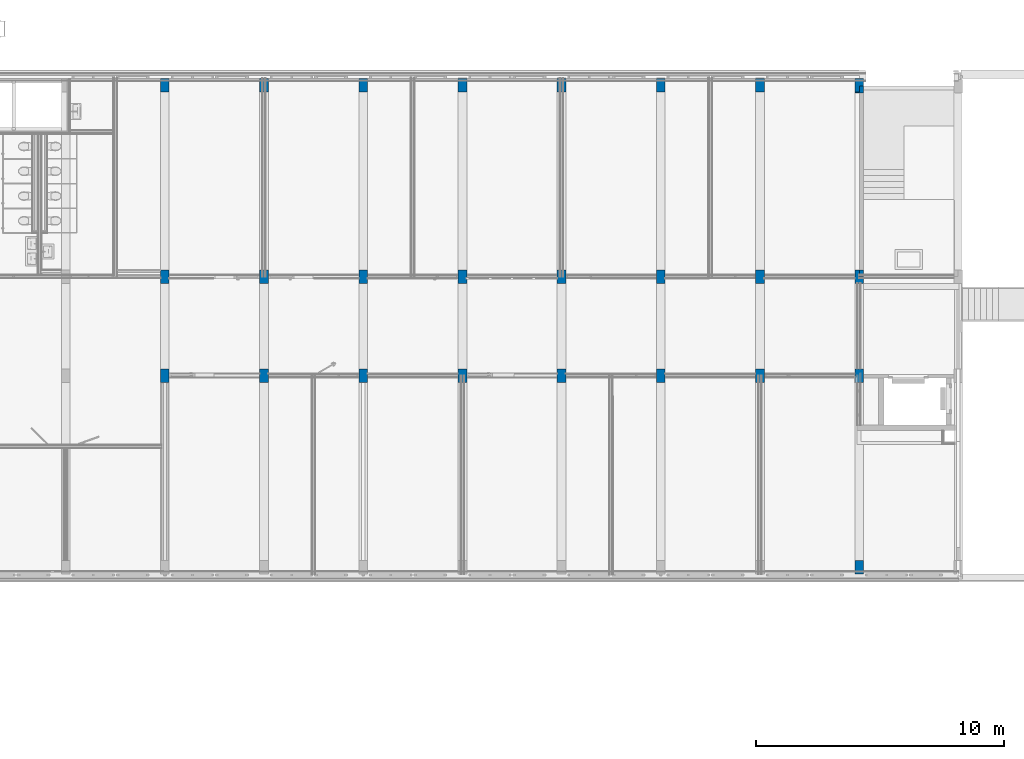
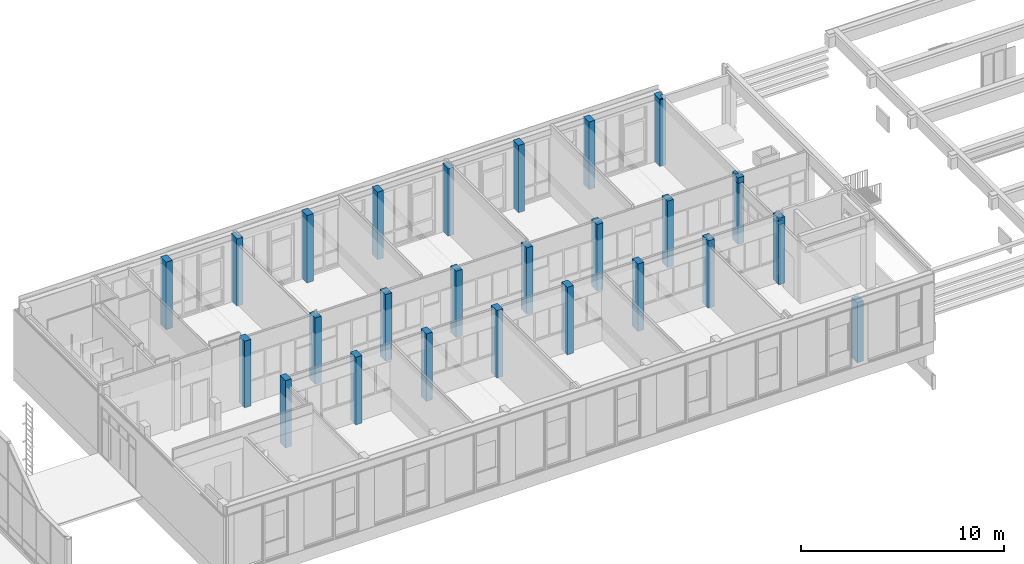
# One storey, part 3 of 54: 28 columns.
"""IFC2X3 building model written with IfcOpenShell, lengths in millimetres."""

import ifcopenshell
import ifcopenshell.guid

model = None  # the IFC model being written
_history = None  # IfcOwnerHistory: only IFC2X3 demands one
_inside = {}  # id of a spatial element -> (the spatial element, [elements in it])
_under = {}  # id of a project, library or spatial element -> (it, [spatial elements below it])
_declared = {}  # id of a project -> (the project, [libraries it declares])
_typed = {}  # id of a type object -> (the type object, [elements of that type])
_made_of = {}  # id of a material, layer set ... -> (it, [elements and type objects made of it])


def new_model(schema):
    """Start an empty IFC model of exactly this schema.

    Asked for "IFC4X3", IfcOpenShell would pick the latest addendum, in which some entities
    have other attributes; the version numbers below select the first issue.
    IFC2X3 requires an IfcOwnerHistory on every rooted entity: one is made here for all.
    """
    global model, _history
    if schema == "IFC4X3":
        model = ifcopenshell.file(schema_version=(4, 3, 0, 0))
    else:
        model = ifcopenshell.file(schema=schema)
    _inside.clear()
    _under.clear()
    _declared.clear()
    _typed.clear()
    _made_of.clear()
    _history = None
    if model.schema == "IFC2X3":
        org = make("IfcOrganization", Name="unknown")
        user = make(
            "IfcPersonAndOrganization",
            ThePerson=make("IfcPerson", FamilyName="unknown"),
            TheOrganization=org,
        )
        app = make(
            "IfcApplication",
            ApplicationDeveloper=org,
            Version="unknown",
            ApplicationFullName="unknown",
            ApplicationIdentifier="unknown",
        )
        _history = make(
            "IfcOwnerHistory",
            OwningUser=user,
            OwningApplication=app,
            ChangeAction="ADDED",
            CreationDate=0,
        )
    return model


def make(cls, **values):
    """One entity of the class cls with the attributes given. An attribute that is None is left unset."""
    return model.create_entity(
        cls, **{name: value for name, value in values.items() if value is not None}
    )


def entity(cls, *values):
    """Any entity or typed value of the class cls, its attributes in the order of the schema. None: left unset."""
    e = model.create_entity(cls)
    for i, value in enumerate(values):
        if value is not None:
            e[i] = value
    return e


def rooted(cls, **values):
    """An entity with a GlobalId (a new one), such as an element, a storey or a relation."""
    return make(cls, GlobalId=ifcopenshell.guid.new(), OwnerHistory=_history, **values)


def si_unit(unit_type, name, prefix=None):
    """IfcSIUnit, for example si_unit("LENGTHUNIT", "METRE", prefix="MILLI")."""
    return make("IfcSIUnit", UnitType=unit_type, Prefix=prefix, Name=name)


def converted_unit(unit_type, name, factor, base, dimensions=None, offset=None):
    """IfcConversionBasedUnit, such as the inch: factor (a typed value) times the base unit."""
    return make(
        "IfcConversionBasedUnit"
        if offset is None
        else "IfcConversionBasedUnitWithOffset",
        ConversionOffset=offset,
        Dimensions=None
        if dimensions is None
        else entity("IfcDimensionalExponents", *dimensions),
        UnitType=unit_type,
        Name=name,
        ConversionFactor=make(
            "IfcMeasureWithUnit", ValueComponent=factor, UnitComponent=base
        ),
    )


def derived_unit(unit_type, elements):
    """IfcDerivedUnit: a product of units, each with its exponent."""
    return make(
        "IfcDerivedUnit",
        Elements=[
            make("IfcDerivedUnitElement", Unit=unit, Exponent=power)
            for unit, power in elements
        ],
        UnitType=unit_type,
    )


def money_unit(currency):
    """IfcMonetaryUnit."""
    return make("IfcMonetaryUnit", Currency=currency)


def assignment(units):
    """IfcUnitAssignment: the units of a project."""
    return None if units is None else make("IfcUnitAssignment", Units=units)


def point(xyz):
    """IfcCartesianPoint."""
    return None if xyz is None else make("IfcCartesianPoint", Coordinates=xyz)


def direction(xyz):
    """IfcDirection."""
    return None if xyz is None else make("IfcDirection", DirectionRatios=xyz)


def frame(location, z_axis=None, x_axis=None):
    """IfcAxis2Placement3D, a coordinate frame: its origin and axes. An axis left out is left unset."""
    return make(
        "IfcAxis2Placement3D",
        Location=point(location),
        Axis=direction(z_axis),
        RefDirection=direction(x_axis),
    )


def origin_with_axes():
    """The frame at (0, 0, 0) with the z axis (0, 0, 1) and the x axis (1, 0, 0) written out."""
    return frame((0.0, 0.0, 0.0), z_axis=(0.0, 0.0, 1.0), x_axis=(1.0, 0.0, 0.0))


def place(relative_to, where):
    """IfcLocalPlacement: puts the frame where relative to a parent placement (None: the world)."""
    return make(
        "IfcLocalPlacement", PlacementRelTo=relative_to, RelativePlacement=where
    )


def context(
    kind, dimensions, precision=None, world=None, true_north=None, identifier=None
):
    """IfcGeometricRepresentationContext, for example the 3D "Model" context."""
    return make(
        "IfcGeometricRepresentationContext",
        ContextIdentifier=identifier,
        ContextType=kind,
        CoordinateSpaceDimension=dimensions,
        Precision=precision,
        WorldCoordinateSystem=world,
        TrueNorth=true_north,
    )


def subcontext(parent, identifier, kind, view, scale=None):
    """IfcGeometricRepresentationSubContext, for example "Body" below "Model"."""
    return make(
        "IfcGeometricRepresentationSubContext",
        ContextIdentifier=identifier,
        ContextType=kind,
        ParentContext=parent,
        TargetScale=scale,
        TargetView=view,
    )


def project(units=None, contexts=None):
    """IfcProject with its units and contexts."""
    return rooted(
        "IfcProject",
        Name="project",
        RepresentationContexts=contexts,
        UnitsInContext=assignment(units),
    )


def spatial(cls, under=None, at=None, **own):
    """A site, building, storey or space (cls), placed at a placement, below another one or the project."""
    s = rooted(cls, ObjectPlacement=at, **own)
    if under is not None:
        _under.setdefault(under.id(), (under, []))[1].append(s)
    return s


def faces_of(points, faces, orient=None, outer=None):
    """IfcFace entities. A face is a list of loops; a loop is a list of indices into points, from 0.

    orient and outer hold one flag for each loop. By default every Orientation is true, the
    first loop of a face is its IfcFaceOuterBound and the others are IfcFaceBound.
    """
    made = []
    for i, loops in enumerate(faces):
        bounds = []
        for j, loop in enumerate(loops):
            is_outer = j == 0 if outer is None else outer[i][j]
            bounds.append(
                make(
                    "IfcFaceOuterBound" if is_outer else "IfcFaceBound",
                    Bound=make("IfcPolyLoop", Polygon=[points[k] for k in loop]),
                    Orientation=True if orient is None else orient[i][j],
                )
            )
        made.append(make("IfcFace", Bounds=bounds))
    return made


def faceted_brep(points, faces, orient=None, outer=None, voids=None):
    """IfcFacetedBrep: a solid bounded by flat faces; with voids (closed shells), ...WithVoids."""
    shared = [point(p) for p in points]
    hull = make("IfcClosedShell", CfsFaces=faces_of(shared, faces, orient, outer))
    if voids is None:
        return make("IfcFacetedBrep", Outer=hull)
    return make(
        "IfcFacetedBrepWithVoids",
        Outer=hull,
        Voids=[
            make(cls, CfsFaces=faces_of(shared, fs, o, b)) for cls, fs, o, b in voids
        ],
    )


def shape(context_of_items, identifier, shape_type, items):
    """IfcShapeRepresentation: the items that make up one representation, for example the "Body"."""
    return make(
        "IfcShapeRepresentation",
        ContextOfItems=context_of_items,
        RepresentationIdentifier=identifier,
        RepresentationType=shape_type,
        Items=items,
    )


def material(Name=None, Category=None):
    """IfcMaterial."""
    return make("IfcMaterial", Name=Name, Category=Category)


def made_of(thing, what):
    """Note that an element or type object is made of a material, layer set ...; save() writes the relation."""
    if what is not None:
        _made_of.setdefault(what.id(), (what, []))[1].append(thing)
    return thing


def type_object(cls, material=None, **own):
    """A type object (cls), such as IfcWallType, which elements share."""
    return made_of(rooted(cls, **own), material)


def element(
    cls,
    number,
    at=None,
    inside=None,
    cuts=None,
    type_object=None,
    material=None,
    context=None,
    identifier="Body",
    shape_type=None,
    held_by="IfcProductDefinitionShape",
    body=None,
    shapes=None,
    **own,
):
    """One element of the class cls, such as IfcWall. Its Tag is "e" and its number.

    at: its placement. inside: the storey or other place that contains it. cuts: it is an
    opening in that element (IfcRelVoidsElement). A single representation is given by context,
    identifier, shape_type and body (its items); several are given by shapes. held_by: the class
    of the entity that holds the representations. save() writes the other relations.
    """
    e = rooted(cls, Tag="e%d" % number, ObjectPlacement=at, **own)
    if body is not None:
        shapes = [shape(context, identifier, shape_type, body)]
    if shapes is not None:
        e.Representation = make(held_by, Representations=shapes)
    if inside is not None:
        _inside.setdefault(inside.id(), (inside, []))[1].append(e)
    if cuts is not None:
        rooted(
            "IfcRelVoidsElement", RelatingBuildingElement=cuts, RelatedOpeningElement=e
        )
    if type_object is not None:
        _typed.setdefault(type_object.id(), (type_object, []))[1].append(e)
    return made_of(e, material)


def aggregate(whole, parts):
    """IfcRelAggregates: a whole, such as a stair, and the parts it consists of."""
    return rooted("IfcRelAggregates", RelatingObject=whole, RelatedObjects=parts)


def save(model, path):
    """Write the relations noted so far, then the file.

    IfcRelAggregates (storeys below a building ...), IfcRelContainedInSpatialStructure (elements
    in a storey), IfcRelDefinesByType, IfcRelAssociatesMaterial and IfcRelDeclares: one each for
    every whole, place, type object, material and project.
    """
    for whole, parts in _under.values():
        aggregate(whole, parts)
    for where, things in _inside.values():
        rooted(
            "IfcRelContainedInSpatialStructure",
            RelatedElements=things,
            RelatingStructure=where,
        )
    for kind, things in _typed.values():
        rooted("IfcRelDefinesByType", RelatedObjects=things, RelatingType=kind)
    for what, things in _made_of.values():
        rooted("IfcRelAssociatesMaterial", RelatedObjects=things, RelatingMaterial=what)
    for by, libraries in _declared.values():
        rooted("IfcRelDeclares", RelatingContext=by, RelatedDefinitions=libraries)
    model.write(path)


model = new_model("IFC2X3")

# Units and contexts
model_context = context("Model", 3, precision=0.01, world=origin_with_axes(), true_north=direction((0.0, 1.0)))
body_context = subcontext(model_context, "Body", "Model", "MODEL_VIEW")
ifc_project = project(units=[si_unit("LENGTHUNIT", "METRE", prefix="MILLI"), si_unit("AREAUNIT", "SQUARE_METRE"), si_unit("VOLUMEUNIT", "CUBIC_METRE"), converted_unit("PLANEANGLEUNIT", "DEGREE", entity("IfcPlaneAngleMeasure", 0.0174532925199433), si_unit("PLANEANGLEUNIT", "RADIAN"), dimensions=[0, 0, 0, 0, 0, 0, 0]), money_unit("EUR"), converted_unit("TIMEUNIT", "Year", entity("IfcTimeMeasure", 31557600.0), si_unit("TIMEUNIT", "SECOND"), dimensions=[0, 0, 1, 0, 0, 0, 0]), si_unit("MASSUNIT", "GRAM", prefix="KILO"), si_unit("THERMODYNAMICTEMPERATUREUNIT", "DEGREE_CELSIUS"), si_unit("LUMINOUSINTENSITYUNIT", "LUMEN"), si_unit("ENERGYUNIT", "JOULE", prefix="MEGA"), derived_unit("THERMALCONDUCTANCEUNIT", [(si_unit("POWERUNIT", "WATT"), 1), (si_unit("LENGTHUNIT", "METRE"), -1), (si_unit("THERMODYNAMICTEMPERATUREUNIT", "KELVIN"), -1)]), derived_unit("SPECIFICHEATCAPACITYUNIT", [(si_unit("ENERGYUNIT", "JOULE"), 1), (si_unit("MASSUNIT", "GRAM", prefix="KILO"), -1), (si_unit("THERMODYNAMICTEMPERATUREUNIT", "KELVIN"), -1)]), derived_unit("MASSDENSITYUNIT", [(si_unit("MASSUNIT", "GRAM", prefix="KILO"), 1), (si_unit("VOLUMEUNIT", "CUBIC_METRE"), -1)])], contexts=[model_context])

# Site, building, storey
site_placement = place(None, origin_with_axes())
site = spatial("IfcSite", under=ifc_project, at=site_placement, Name="<site naam>", CompositionType="ELEMENT")
building_placement = place(site_placement, origin_with_axes())
building = spatial("IfcBuilding", under=site, at=building_placement, Name="<Naam gebouw>", CompositionType="ELEMENT")
storey_placement = place(building_placement, frame((0.0, 0.0, 8500.0), z_axis=(0.0, 0.0, 1.0), x_axis=(1.0, 0.0, 0.0)))
storey = spatial("IfcBuildingStorey", under=building, at=storey_placement, Name="02 2e verdieping", CompositionType="ELEMENT", Elevation=8500.0)

# Columns
ifc_material_1 = material(Name="betonblok C")
column_type_1 = type_object("IfcColumnType", Name="betonblok C 350 x 550", PredefinedType="COLUMN")
column_1_placement = place(storey_placement, frame((48000.00000000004, 19724.99999999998, 0.0), z_axis=(0.0, 0.0, 1.0), x_axis=(1.0, 0.0, 0.0)))
element("IfcColumn", 1, at=column_1_placement, inside=storey, type_object=column_type_1, material=ifc_material_1, Name="28_Kolom_betonblok", ObjectType="COLUMN", context=body_context, shape_type="Brep", body=[
    faceted_brep([(-174.9999999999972, 274.9999999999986, 0.0), (-174.9999999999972, 274.9999999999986, 4050.000014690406), (174.9999999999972, 274.9999999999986, 4050.000014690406), (174.9999999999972, 274.9999999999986, 0.0), (-174.9999999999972, -274.9999999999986, 0.0), (-174.9999999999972, -274.9999999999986, 4050.000014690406), (15.07785426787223, -39.08932188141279, 4050.000014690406), (174.9999999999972, -39.08932188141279, 4050.000014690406), (15.07785426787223, -274.9999999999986, 4050.000014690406), (174.9999999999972, -39.08932188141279, 0.0), (15.07785426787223, -39.08932188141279, 0.0), (15.07785426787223, -274.9999999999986, 0.0)], [[[0, 1, 2, 3]], [[4, 5, 1, 0]], [[6, 7, 2, 1, 5, 8]], [[3, 2, 7, 9]], [[3, 9, 10, 11, 4, 0]], [[11, 8, 5, 4]], [[9, 7, 6, 10]], [[10, 6, 8, 11]]]),
])
column_2_placement = place(storey_placement, frame((48000.00000000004, 8000.000000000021, 0.0), z_axis=(0.0, 0.0, 1.0), x_axis=(1.0, 0.0, 0.0)))
element("IfcColumn", 2, at=column_2_placement, inside=storey, type_object=column_type_1, material=ifc_material_1, Name="28_Kolom_betonblok", ObjectType="COLUMN", context=body_context, shape_type="Brep", body=[
    faceted_brep([(-174.9999999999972, 275.0000000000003, 0.0), (-175.0000000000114, 275.0000000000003, 3660.0), (174.9999999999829, 275.0000000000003, 3660.0), (174.9999999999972, 275.0000000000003, 0.0), (-175.0000000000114, -5.54614990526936, 3610.000000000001), (-175.0000000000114, -5.54614990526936, 3660.0), (-174.9999999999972, -275.0000000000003, 0.0), (-175.0000000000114, -275.0000000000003, 3610.000000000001), (174.9999999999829, -5.54614990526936, 3660.0), (174.9999999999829, -5.54614990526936, 3610.000000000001), (174.9999999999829, -275.0000000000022, 3610.000000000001), (174.9999999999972, -275.0000000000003, 0.0)], [[[0, 1, 2, 3]], [[4, 5, 1, 0, 6, 7]], [[5, 8, 2, 1]], [[3, 2, 8, 9, 10, 11]], [[0, 3, 11, 6]], [[9, 8, 5, 4]], [[11, 10, 7, 6]], [[7, 10, 9, 4]]]),
])
column_3_placement = place(storey_placement, frame((48000.00000000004, 12000.00000000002, 0.0), z_axis=(0.0, 0.0, 1.0), x_axis=(1.0, 0.0, 0.0)))
element("IfcColumn", 3, at=column_3_placement, inside=storey, type_object=column_type_1, material=ifc_material_1, Name="28_Kolom_betonblok", ObjectType="COLUMN", context=body_context, shape_type="Brep", body=[
    faceted_brep([(15.07785426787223, 0.0, 0.0), (15.07785426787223, 0.0, 3660.0), (174.9999999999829, 0.0, 3660.0), (174.9999999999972, 0.0, 0.0), (15.07785426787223, 275.0000000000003, 4050.000014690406), (15.07785426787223, 0.0, 4050.000014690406), (15.07785426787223, 275.0000000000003, 0.0), (-175.0000000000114, -275.0000000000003, 3660.0), (174.9999999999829, -275.0000000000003, 3660.0), (-175.0000000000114, 0.0, 3660.0), (174.9999999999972, -275.0000000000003, 0.0), (-174.9999999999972, -275.0000000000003, 0.0), (-174.9999999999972, 275.0000000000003, 0.0), (-174.9999999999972, 275.0000000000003, 4050.000014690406), (-175.0000000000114, 0.0, 4050.000014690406)], [[[0, 1, 2, 3]], [[4, 5, 1, 0, 6]], [[7, 8, 2, 1, 9]], [[3, 2, 8, 10]], [[11, 12, 6, 0, 3, 10]], [[13, 14, 5, 4]], [[9, 1, 5, 14]], [[6, 12, 13, 4]], [[10, 8, 7, 11]], [[7, 9, 14, 13, 12, 11]]]),
])
column_4_placement = place(storey_placement, frame((48000.00000000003, 275.0000000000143, 0.0), z_axis=(0.0, 0.0, 1.0), x_axis=(1.0, 0.0, 0.0)))
element("IfcColumn", 4, at=column_4_placement, inside=storey, type_object=column_type_1, material=ifc_material_1, Name="28_Kolom_betonblok", ObjectType="COLUMN", context=body_context, shape_type="Brep", body=[
    faceted_brep([(-174.9999999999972, 275.0000000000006, 0.0), (-174.9999999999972, 275.0000000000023, 3610.000000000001), (175.0000000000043, 275.0000000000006, 3610.000000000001), (174.9999999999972, 275.0000000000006, 0.0), (-174.9999999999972, -275.0000000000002, 0.0), (-174.9999999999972, -275.0000000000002, 3610.000000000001), (175.0000000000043, -275.0000000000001, 3610.000000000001), (174.9999999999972, -275.0000000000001, 0.0)], [[[0, 1, 2, 3]], [[4, 5, 1, 0]], [[5, 6, 2, 1]], [[3, 2, 6, 7]], [[0, 3, 7, 4]], [[7, 6, 5, 4]]]),
])
ifc_material_2 = material(Name="beton_gewapend C")
column_type_2 = type_object("IfcColumnType", Name="beton_gewapend C 350 x 550", PredefinedType="COLUMN")
column_5_placement = place(storey_placement, frame((48000.00000000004, 19685.91067811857, 0.0), z_axis=(0.0, 0.0, 1.0), x_axis=(1.0, 0.0, 0.0)))
element("IfcColumn", 5, at=column_5_placement, inside=storey, type_object=column_type_2, material=ifc_material_2, Name="28_Kolom_beton_gewapend", ObjectType="COLUMN", context=body_context, shape_type="Brep", body=[
    faceted_brep([(-174.9999999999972, -274.9999999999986, 3990.0), (-174.9999999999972, -274.9999999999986, 0.0), (174.9999999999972, -274.9999999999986, 0.0), (174.9999999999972, -274.9999999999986, 3990.0), (-174.9999999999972, 274.9999999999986, 3990.0), (-174.9999999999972, 274.9999999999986, 0.0), (174.9999999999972, 274.9999999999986, 0.0), (174.9999999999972, 274.9999999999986, 3990.0)], [[[0, 1, 2, 3]], [[4, 5, 1, 0]], [[2, 1, 5, 6]], [[3, 2, 6, 7]], [[4, 0, 3, 7]], [[7, 6, 5, 4]]]),
])
column_6_placement = place(storey_placement, frame((48000.00000000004, 8000.000000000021, 0.0), z_axis=(0.0, 0.0, 1.0), x_axis=(1.0, 0.0, 0.0)))
element("IfcColumn", 6, at=column_6_placement, inside=storey, type_object=column_type_2, material=ifc_material_2, Name="28_Kolom_beton_gewapend", ObjectType="COLUMN", context=body_context, shape_type="Brep", body=[
    faceted_brep([(-174.9999999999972, -275.0000000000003, 3990.0), (-174.9999999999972, -275.0000000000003, 0.0), (174.9999999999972, -275.0000000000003, 0.0), (174.9999999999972, -275.0000000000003, 3990.0), (-174.9999999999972, 275.0000000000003, 3990.0), (-174.9999999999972, 275.0000000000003, 0.0), (174.9999999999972, 275.0000000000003, 0.0), (174.9999999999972, 275.0000000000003, 3990.0)], [[[0, 1, 2, 3]], [[4, 5, 1, 0]], [[2, 1, 5, 6]], [[3, 2, 6, 7]], [[4, 0, 3, 7]], [[7, 6, 5, 4]]]),
])
column_7_placement = place(storey_placement, frame((44000.00000000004, 19724.99999999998, 0.0), z_axis=(0.0, 0.0, 1.0), x_axis=(1.0, 0.0, 0.0)))
element("IfcColumn", 7, at=column_7_placement, inside=storey, type_object=column_type_2, material=ifc_material_2, Name="28_Kolom_beton_gewapend", ObjectType="COLUMN", context=body_context, shape_type="Brep", body=[
    faceted_brep([(-174.9999999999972, 274.9999999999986, 0.0), (-174.9999999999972, 274.9999999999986, 4050.000014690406), (174.9999999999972, 274.9999999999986, 4050.000014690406), (174.9999999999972, 274.9999999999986, 0.0), (-174.9999999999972, -274.9999999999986, 0.0), (-174.9999999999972, -274.9999999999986, 4050.000014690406), (174.9999999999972, -274.9999999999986, 4050.000014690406), (174.9999999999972, -274.9999999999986, 0.0)], [[[0, 1, 2, 3]], [[4, 5, 1, 0]], [[5, 6, 2, 1]], [[3, 2, 6, 7]], [[3, 7, 4, 0]], [[7, 6, 5, 4]]]),
])
column_8_placement = place(storey_placement, frame((44000.00000000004, 8000.000000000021, 0.0), z_axis=(0.0, 0.0, 1.0), x_axis=(1.0, 0.0, 0.0)))
element("IfcColumn", 8, at=column_8_placement, inside=storey, type_object=column_type_2, material=ifc_material_2, Name="28_Kolom_beton_gewapend", ObjectType="COLUMN", context=body_context, shape_type="Brep", body=[
    faceted_brep([(-174.9999999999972, 274.9999999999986, 0.0), (-174.9999999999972, 274.9999999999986, 4050.000014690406), (174.9999999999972, 275.0000000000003, 4050.000014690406), (174.9999999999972, 275.0000000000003, 0.0), (-174.9999999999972, -275.0000000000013, 0.0), (-174.9999999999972, -275.0000000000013, 4050.000014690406), (174.9999999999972, -275.0000000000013, 4050.000014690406), (174.9999999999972, -275.0000000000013, 0.0)], [[[0, 1, 2, 3]], [[4, 5, 1, 0]], [[5, 6, 2, 1]], [[3, 2, 6, 7]], [[3, 7, 4, 0]], [[7, 6, 5, 4]]]),
])
column_9_placement = place(storey_placement, frame((48000.00000000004, 12000.00000000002, 0.0), z_axis=(0.0, 0.0, 1.0), x_axis=(1.0, 0.0, 0.0)))
element("IfcColumn", 9, at=column_9_placement, inside=storey, type_object=column_type_2, material=ifc_material_2, Name="28_Kolom_beton_gewapend", ObjectType="COLUMN", context=body_context, shape_type="Brep", body=[
    faceted_brep([(-174.9999999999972, -275.0000000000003, 3990.0), (-174.9999999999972, -275.0000000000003, 0.0), (174.9999999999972, -275.0000000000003, 0.0), (174.9999999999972, -275.0000000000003, 3990.0), (-174.9999999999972, 275.0000000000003, 3990.0), (-174.9999999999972, 275.0000000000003, 0.0), (174.9999999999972, 275.0000000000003, 0.0), (174.9999999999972, 275.0000000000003, 3990.0)], [[[0, 1, 2, 3]], [[4, 5, 1, 0]], [[2, 1, 5, 6]], [[3, 2, 6, 7]], [[4, 0, 3, 7]], [[7, 6, 5, 4]]]),
])
column_10_placement = place(storey_placement, frame((44000.00000000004, 12000.00000000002, 0.0), z_axis=(0.0, 0.0, 1.0), x_axis=(1.0, 0.0, 0.0)))
element("IfcColumn", 10, at=column_10_placement, inside=storey, type_object=column_type_2, material=ifc_material_2, Name="28_Kolom_beton_gewapend", ObjectType="COLUMN", context=body_context, shape_type="Brep", body=[
    faceted_brep([(-174.9999999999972, -275.0000000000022, 3990.0), (-174.9999999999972, -275.0000000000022, 0.0), (174.9999999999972, -275.0000000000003, 0.0), (174.9999999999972, -275.0000000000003, 3990.0), (-174.9999999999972, 274.9999999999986, 3990.0), (-174.9999999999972, 274.9999999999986, 0.0), (174.9999999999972, 275.0000000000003, 0.0), (174.9999999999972, 275.0000000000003, 3990.0)], [[[0, 1, 2, 3]], [[4, 5, 1, 0]], [[2, 1, 5, 6]], [[3, 2, 6, 7]], [[4, 0, 3, 7]], [[7, 6, 5, 4]]]),
])
column_11_placement = place(storey_placement, frame((40000.00000000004, 19724.99999999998, 0.0), z_axis=(0.0, 0.0, 1.0), x_axis=(1.0, 0.0, 0.0)))
element("IfcColumn", 11, at=column_11_placement, inside=storey, type_object=column_type_2, material=ifc_material_2, Name="28_Kolom_beton_gewapend", ObjectType="COLUMN", context=body_context, shape_type="Brep", body=[
    faceted_brep([(-174.9999999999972, 274.999999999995, 0.0), (-174.9999999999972, 274.999999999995, 4050.000014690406), (174.9999999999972, 274.9999999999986, 4050.000014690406), (174.9999999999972, 274.9999999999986, 0.0), (-174.9999999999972, -275.0000000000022, 0.0), (-174.9999999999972, -275.0000000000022, 4050.000014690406), (174.9999999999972, -274.9999999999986, 4050.000014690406), (174.9999999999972, -274.9999999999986, 0.0)], [[[0, 1, 2, 3]], [[4, 5, 1, 0]], [[5, 6, 2, 1]], [[3, 2, 6, 7]], [[3, 7, 4, 0]], [[7, 6, 5, 4]]]),
])
column_12_placement = place(storey_placement, frame((40000.00000000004, 12000.00000000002, 0.0), z_axis=(0.0, 0.0, 1.0), x_axis=(1.0, 0.0, 0.0)))
element("IfcColumn", 12, at=column_12_placement, inside=storey, type_object=column_type_2, material=ifc_material_2, Name="28_Kolom_beton_gewapend", ObjectType="COLUMN", context=body_context, shape_type="Brep", body=[
    faceted_brep([(-174.9999999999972, -275.0000000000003, 3990.0), (-174.9999999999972, -275.0000000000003, 0.0), (174.9999999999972, -275.0000000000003, 0.0), (174.9999999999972, -275.0000000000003, 3990.0), (-174.9999999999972, 275.0000000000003, 3990.0), (-174.9999999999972, 275.0000000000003, 0.0), (174.9999999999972, 275.0000000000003, 0.0), (174.9999999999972, 275.0000000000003, 3990.0)], [[[0, 1, 2, 3]], [[4, 5, 1, 0]], [[2, 1, 5, 6]], [[3, 2, 6, 7]], [[4, 0, 3, 7]], [[7, 6, 5, 4]]]),
])
column_13_placement = place(storey_placement, frame((40000.00000000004, 8000.000000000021, 0.0), z_axis=(0.0, 0.0, 1.0), x_axis=(1.0, 0.0, 0.0)))
element("IfcColumn", 13, at=column_13_placement, inside=storey, type_object=column_type_2, material=ifc_material_2, Name="28_Kolom_beton_gewapend", ObjectType="COLUMN", context=body_context, shape_type="Brep", body=[
    faceted_brep([(-174.9999999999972, 275.0000000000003, 0.0), (-174.9999999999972, 275.0000000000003, 4050.000014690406), (174.9999999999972, 275.0000000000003, 4050.000014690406), (174.9999999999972, 275.0000000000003, 0.0), (-174.9999999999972, -275.0000000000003, 0.0), (-174.9999999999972, -275.0000000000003, 4050.000014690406), (174.9999999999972, -275.0000000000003, 4050.000014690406), (174.9999999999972, -275.0000000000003, 0.0)], [[[0, 1, 2, 3]], [[4, 5, 1, 0]], [[5, 6, 2, 1]], [[3, 2, 6, 7]], [[3, 7, 4, 0]], [[7, 6, 5, 4]]]),
])
column_14_placement = place(storey_placement, frame((20000.00000000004, 19724.99999999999, 0.0), z_axis=(0.0, 0.0, 1.0), x_axis=(1.0, 0.0, 0.0)))
element("IfcColumn", 14, at=column_14_placement, inside=storey, type_object=column_type_2, material=ifc_material_2, Name="28_Kolom_beton_gewapend", ObjectType="COLUMN", context=body_context, shape_type="Brep", body=[
    faceted_brep([(-175.0000000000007, 274.9999999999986, 0.0), (-175.0000000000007, 274.9999999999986, 4050.000014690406), (175.0000000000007, 274.9999999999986, 4050.000014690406), (175.0000000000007, 274.9999999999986, 0.0), (-175.0000000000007, -274.9999999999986, 0.0), (-175.0000000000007, -274.9999999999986, 4050.000014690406), (175.0000000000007, -274.9999999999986, 4050.000014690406), (175.0000000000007, -274.9999999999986, 0.0)], [[[0, 1, 2, 3]], [[4, 5, 1, 0]], [[5, 6, 2, 1]], [[3, 2, 6, 7]], [[3, 7, 4, 0]], [[7, 6, 5, 4]]]),
])
column_15_placement = place(storey_placement, frame((20000.00000000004, 12000.00000000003, 0.0), z_axis=(0.0, 0.0, 1.0), x_axis=(1.0, 0.0, 0.0)))
element("IfcColumn", 15, at=column_15_placement, inside=storey, type_object=column_type_2, material=ifc_material_2, Name="28_Kolom_beton_gewapend", ObjectType="COLUMN", context=body_context, shape_type="Brep", body=[
    faceted_brep([(-175.0000000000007, -275.0000000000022, 3990.0), (-175.0000000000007, -275.0000000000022, 0.0), (175.0000000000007, -275.0000000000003, 0.0), (175.0000000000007, -275.0000000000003, 3990.0), (-175.0000000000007, 274.9999999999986, 3990.0), (-175.0000000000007, 274.9999999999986, 0.0), (175.0000000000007, 275.0000000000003, 0.0), (175.0000000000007, 275.0000000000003, 3990.0)], [[[0, 1, 2, 3]], [[4, 5, 1, 0]], [[2, 1, 5, 6]], [[3, 2, 6, 7]], [[4, 0, 3, 7]], [[7, 6, 5, 4]]]),
])
column_16_placement = place(storey_placement, frame((20000.00000000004, 8000.000000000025, 0.0), z_axis=(0.0, 0.0, 1.0), x_axis=(1.0, 0.0, 0.0)))
element("IfcColumn", 16, at=column_16_placement, inside=storey, type_object=column_type_2, material=ifc_material_2, Name="28_Kolom_beton_gewapend", ObjectType="COLUMN", context=body_context, shape_type="Brep", body=[
    faceted_brep([(-175.0000000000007, 274.9999999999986, 0.0), (-175.0000000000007, 274.9999999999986, 4050.000014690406), (175.0000000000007, 275.0000000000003, 4050.000014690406), (175.0000000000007, 275.0000000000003, 0.0), (-174.9999999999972, -275.0000000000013, 0.0), (-174.9999999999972, -275.0000000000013, 4050.000014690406), (175.0000000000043, -275.0000000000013, 4050.000014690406), (175.0000000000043, -275.0000000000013, 0.0)], [[[0, 1, 2, 3]], [[4, 5, 1, 0]], [[5, 6, 2, 1]], [[3, 2, 6, 7]], [[0, 3, 7, 4]], [[7, 6, 5, 4]]]),
])
column_17_placement = place(storey_placement, frame((24000.00000000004, 12000.00000000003, 0.0), z_axis=(0.0, 0.0, 1.0), x_axis=(1.0, 0.0, 0.0)))
element("IfcColumn", 17, at=column_17_placement, inside=storey, type_object=column_type_2, material=ifc_material_2, Name="28_Kolom_beton_gewapend", ObjectType="COLUMN", context=body_context, shape_type="Brep", body=[
    faceted_brep([(-175.0000000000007, -275.0000000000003, 3990.0), (-175.0000000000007, -275.0000000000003, 0.0), (175.0000000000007, -275.0000000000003, 0.0), (175.0000000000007, -275.0000000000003, 3990.0), (-175.0000000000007, 275.0000000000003, 3990.0), (-175.0000000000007, 275.0000000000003, 0.0), (175.0000000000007, 275.0000000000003, 0.0), (175.0000000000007, 275.0000000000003, 3990.0)], [[[0, 1, 2, 3]], [[4, 5, 1, 0]], [[2, 1, 5, 6]], [[3, 2, 6, 7]], [[4, 0, 3, 7]], [[7, 6, 5, 4]]]),
])
column_18_placement = place(storey_placement, frame((24000.00000000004, 8000.000000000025, 0.0), z_axis=(0.0, 0.0, 1.0), x_axis=(1.0, 0.0, 0.0)))
element("IfcColumn", 18, at=column_18_placement, inside=storey, type_object=column_type_2, material=ifc_material_2, Name="28_Kolom_beton_gewapend", ObjectType="COLUMN", context=body_context, shape_type="Brep", body=[
    faceted_brep([(-175.0000000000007, 275.0000000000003, 0.0), (-175.0000000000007, 275.0000000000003, 4050.000014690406), (175.0000000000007, 275.0000000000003, 4050.000014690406), (175.0000000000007, 275.0000000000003, 0.0), (-174.9999999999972, -275.0000000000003, 0.0), (-174.9999999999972, -275.0000000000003, 4050.000014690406), (175.0000000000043, -275.0000000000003, 4050.000014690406), (175.0000000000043, -275.0000000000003, 0.0)], [[[0, 1, 2, 3]], [[4, 5, 1, 0]], [[5, 6, 2, 1]], [[3, 2, 6, 7]], [[3, 7, 4, 0]], [[7, 6, 5, 4]]]),
])
column_19_placement = place(storey_placement, frame((24000.00000000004, 19724.99999999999, 0.0), z_axis=(0.0, 0.0, 1.0), x_axis=(1.0, 0.0, 0.0)))
element("IfcColumn", 19, at=column_19_placement, inside=storey, type_object=column_type_2, material=ifc_material_2, Name="28_Kolom_beton_gewapend", ObjectType="COLUMN", context=body_context, shape_type="Brep", body=[
    faceted_brep([(-175.0000000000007, 274.999999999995, 0.0), (-175.0000000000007, 274.999999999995, 4050.000014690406), (175.0000000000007, 274.9999999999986, 4050.000014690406), (175.0000000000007, 274.9999999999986, 0.0), (-175.0000000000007, -275.0000000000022, 0.0), (-175.0000000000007, -275.0000000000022, 4050.000014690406), (175.0000000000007, -274.9999999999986, 4050.000014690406), (175.0000000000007, -274.9999999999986, 0.0)], [[[0, 1, 2, 3]], [[4, 5, 1, 0]], [[5, 6, 2, 1]], [[3, 2, 6, 7]], [[3, 7, 4, 0]], [[7, 6, 5, 4]]]),
])
column_20_placement = place(storey_placement, frame((28000.00000000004, 19724.99999999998, 0.0), z_axis=(0.0, 0.0, 1.0), x_axis=(1.0, 0.0, 0.0)))
element("IfcColumn", 20, at=column_20_placement, inside=storey, type_object=column_type_2, material=ifc_material_2, Name="28_Kolom_beton_gewapend", ObjectType="COLUMN", context=body_context, shape_type="Brep", body=[
    faceted_brep([(-175.0000000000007, 274.9999999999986, 0.0), (-175.0000000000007, 274.9999999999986, 4050.000014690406), (175.0000000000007, 274.9999999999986, 4050.000014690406), (175.0000000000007, 274.9999999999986, 0.0), (-175.0000000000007, -274.9999999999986, 0.0), (-175.0000000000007, -274.9999999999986, 4050.000014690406), (175.0000000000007, -274.9999999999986, 4050.000014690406), (175.0000000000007, -274.9999999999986, 0.0)], [[[0, 1, 2, 3]], [[4, 5, 1, 0]], [[5, 6, 2, 1]], [[3, 2, 6, 7]], [[3, 7, 4, 0]], [[7, 6, 5, 4]]]),
])
column_21_placement = place(storey_placement, frame((28000.00000000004, 12000.00000000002, 0.0), z_axis=(0.0, 0.0, 1.0), x_axis=(1.0, 0.0, 0.0)))
element("IfcColumn", 21, at=column_21_placement, inside=storey, type_object=column_type_2, material=ifc_material_2, Name="28_Kolom_beton_gewapend", ObjectType="COLUMN", context=body_context, shape_type="Brep", body=[
    faceted_brep([(-175.0000000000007, -275.0000000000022, 3990.0), (-175.0000000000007, -275.0000000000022, 0.0), (175.0000000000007, -275.0000000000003, 0.0), (175.0000000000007, -275.0000000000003, 3990.0), (-175.0000000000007, 274.9999999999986, 3990.0), (-175.0000000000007, 274.9999999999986, 0.0), (175.0000000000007, 275.0000000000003, 0.0), (175.0000000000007, 275.0000000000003, 3990.0)], [[[0, 1, 2, 3]], [[4, 5, 1, 0]], [[2, 1, 5, 6]], [[3, 2, 6, 7]], [[4, 0, 3, 7]], [[7, 6, 5, 4]]]),
])
column_22_placement = place(storey_placement, frame((28000.00000000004, 8000.000000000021, 0.0), z_axis=(0.0, 0.0, 1.0), x_axis=(1.0, 0.0, 0.0)))
element("IfcColumn", 22, at=column_22_placement, inside=storey, type_object=column_type_2, material=ifc_material_2, Name="28_Kolom_beton_gewapend", ObjectType="COLUMN", context=body_context, shape_type="Brep", body=[
    faceted_brep([(-175.0000000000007, 274.9999999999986, 0.0), (-175.0000000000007, 274.9999999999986, 4050.000014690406), (175.0000000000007, 275.0000000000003, 4050.000014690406), (175.0000000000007, 275.0000000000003, 0.0), (-174.9999999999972, -275.0000000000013, 0.0), (-174.9999999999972, -275.0000000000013, 4050.000014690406), (175.0000000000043, -275.0000000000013, 4050.000014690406), (175.0000000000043, -275.0000000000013, 0.0)], [[[0, 1, 2, 3]], [[4, 5, 1, 0]], [[5, 6, 2, 1]], [[3, 2, 6, 7]], [[3, 7, 4, 0]], [[7, 6, 5, 4]]]),
])
column_23_placement = place(storey_placement, frame((32000.00000000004, 19724.99999999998, 0.0), z_axis=(0.0, 0.0, 1.0), x_axis=(1.0, 0.0, 0.0)))
element("IfcColumn", 23, at=column_23_placement, inside=storey, type_object=column_type_2, material=ifc_material_2, Name="28_Kolom_beton_gewapend", ObjectType="COLUMN", context=body_context, shape_type="Brep", body=[
    faceted_brep([(-174.9999999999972, 274.9999999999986, 0.0), (-174.9999999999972, 274.9999999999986, 4050.000014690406), (174.9999999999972, 274.9999999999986, 4050.000014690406), (174.9999999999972, 274.9999999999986, 0.0), (-174.9999999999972, -274.9999999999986, 0.0), (-174.9999999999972, -274.9999999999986, 4050.000014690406), (174.9999999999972, -274.9999999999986, 4050.000014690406), (174.9999999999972, -274.9999999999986, 0.0)], [[[0, 1, 2, 3]], [[4, 5, 1, 0]], [[5, 6, 2, 1]], [[3, 2, 6, 7]], [[3, 7, 4, 0]], [[7, 6, 5, 4]]]),
])
column_24_placement = place(storey_placement, frame((32000.00000000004, 12000.00000000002, 0.0), z_axis=(0.0, 0.0, 1.0), x_axis=(1.0, 0.0, 0.0)))
element("IfcColumn", 24, at=column_24_placement, inside=storey, type_object=column_type_2, material=ifc_material_2, Name="28_Kolom_beton_gewapend", ObjectType="COLUMN", context=body_context, shape_type="Brep", body=[
    faceted_brep([(-175.0000000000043, -275.0000000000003, 3990.0), (-175.0000000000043, -275.0000000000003, 0.0), (174.9999999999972, -275.0000000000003, 0.0), (174.9999999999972, -275.0000000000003, 3990.0), (-175.0000000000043, 275.0000000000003, 3990.0), (-175.0000000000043, 275.0000000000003, 0.0), (174.9999999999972, 275.0000000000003, 0.0), (174.9999999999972, 275.0000000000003, 3990.0)], [[[0, 1, 2, 3]], [[4, 5, 1, 0]], [[2, 1, 5, 6]], [[3, 2, 6, 7]], [[4, 0, 3, 7]], [[7, 6, 5, 4]]]),
])
column_25_placement = place(storey_placement, frame((32000.00000000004, 8000.000000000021, 0.0), z_axis=(0.0, 0.0, 1.0), x_axis=(1.0, 0.0, 0.0)))
element("IfcColumn", 25, at=column_25_placement, inside=storey, type_object=column_type_2, material=ifc_material_2, Name="28_Kolom_beton_gewapend", ObjectType="COLUMN", context=body_context, shape_type="Brep", body=[
    faceted_brep([(-175.0000000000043, 275.0000000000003, 0.0), (-175.0000000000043, 275.0000000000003, 4050.000014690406), (174.9999999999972, 275.0000000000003, 4050.000014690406), (174.9999999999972, 275.0000000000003, 0.0), (-175.0000000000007, -275.0000000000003, 0.0), (-175.0000000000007, -275.0000000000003, 4050.000014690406), (174.9999999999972, -275.0000000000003, 4050.000014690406), (174.9999999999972, -275.0000000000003, 0.0)], [[[0, 1, 2, 3]], [[4, 5, 1, 0]], [[5, 6, 2, 1]], [[3, 2, 6, 7]], [[3, 7, 4, 0]], [[7, 6, 5, 4]]]),
])
column_26_placement = place(storey_placement, frame((36000.00000000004, 19724.99999999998, 0.0), z_axis=(0.0, 0.0, 1.0), x_axis=(1.0, 0.0, 0.0)))
element("IfcColumn", 26, at=column_26_placement, inside=storey, type_object=column_type_2, material=ifc_material_2, Name="28_Kolom_beton_gewapend", ObjectType="COLUMN", context=body_context, shape_type="Brep", body=[
    faceted_brep([(-174.9999999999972, 274.9999999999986, 0.0), (-174.9999999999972, 274.9999999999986, 4050.000014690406), (174.9999999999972, 274.9999999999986, 4050.000014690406), (174.9999999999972, 274.9999999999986, 0.0), (-174.9999999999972, -274.9999999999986, 0.0), (-174.9999999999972, -274.9999999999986, 4050.000014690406), (174.9999999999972, -274.9999999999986, 4050.000014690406), (174.9999999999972, -274.9999999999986, 0.0)], [[[0, 1, 2, 3]], [[4, 5, 1, 0]], [[5, 6, 2, 1]], [[3, 2, 6, 7]], [[3, 7, 4, 0]], [[7, 6, 5, 4]]]),
])
column_27_placement = place(storey_placement, frame((36000.00000000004, 12000.00000000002, 0.0), z_axis=(0.0, 0.0, 1.0), x_axis=(1.0, 0.0, 0.0)))
element("IfcColumn", 27, at=column_27_placement, inside=storey, type_object=column_type_2, material=ifc_material_2, Name="28_Kolom_beton_gewapend", ObjectType="COLUMN", context=body_context, shape_type="Brep", body=[
    faceted_brep([(-174.9999999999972, -275.0000000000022, 3990.0), (-174.9999999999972, -275.0000000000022, 0.0), (174.9999999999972, -275.0000000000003, 0.0), (174.9999999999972, -275.0000000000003, 3990.0), (-174.9999999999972, 274.9999999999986, 3990.0), (-174.9999999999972, 274.9999999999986, 0.0), (174.9999999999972, 275.0000000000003, 0.0), (174.9999999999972, 275.0000000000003, 3990.0)], [[[0, 1, 2, 3]], [[4, 5, 1, 0]], [[2, 1, 5, 6]], [[3, 2, 6, 7]], [[4, 0, 3, 7]], [[7, 6, 5, 4]]]),
])
column_28_placement = place(storey_placement, frame((36000.00000000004, 8000.000000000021, 0.0), z_axis=(0.0, 0.0, 1.0), x_axis=(1.0, 0.0, 0.0)))
element("IfcColumn", 28, at=column_28_placement, inside=storey, type_object=column_type_2, material=ifc_material_2, Name="28_Kolom_beton_gewapend", ObjectType="COLUMN", context=body_context, shape_type="Brep", body=[
    faceted_brep([(-174.9999999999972, 274.9999999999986, 0.0), (-174.9999999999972, 274.9999999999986, 4050.000014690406), (174.9999999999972, 275.0000000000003, 4050.000014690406), (174.9999999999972, 275.0000000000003, 0.0), (-174.9999999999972, -275.0000000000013, 0.0), (-174.9999999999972, -275.0000000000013, 4050.000014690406), (174.9999999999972, -275.0000000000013, 4050.000014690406), (174.9999999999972, -275.0000000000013, 0.0)], [[[0, 1, 2, 3]], [[4, 5, 1, 0]], [[5, 6, 2, 1]], [[3, 2, 6, 7]], [[3, 7, 4, 0]], [[7, 6, 5, 4]]]),
])

save(model, "model.ifc")
